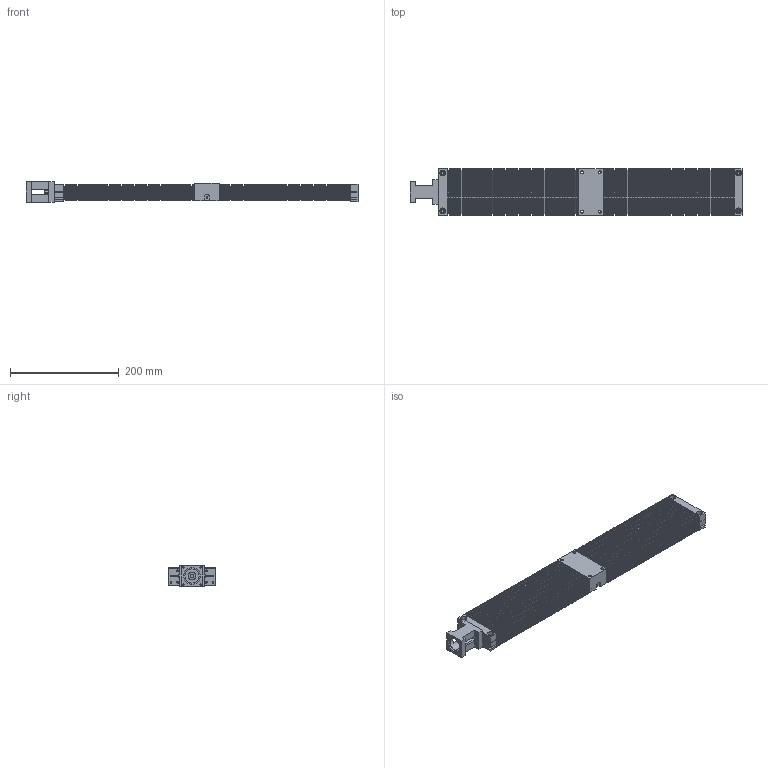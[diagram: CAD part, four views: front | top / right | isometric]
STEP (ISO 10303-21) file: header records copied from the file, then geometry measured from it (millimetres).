
FILE_DESCRIPTION (( 'STEP AP214' ), '1' );
FILE_NAME ('TKC0802B-300-F0-C-潠眢耀郪-20240914.STEP', '2024-09-14T02:58:19', ( '' ), ( '' ), 'SwSTEP 2.0', 'SolidWorks 2020', '' );
FILE_SCHEMA (( 'AUTOMOTIVE_DESIGN' ));
Length unit declared in the file: millimetre
Products named in the file (6): tkc08-盓傅釱; tkc08-賑怢; tkc08-嘐隅盓傅釱; 鎮湛釱-100W; TKC0802B-300-F0-C-潠眢耀郪-20240914; 瑞р欶
Assembly tree (6 placements, depth 2):
  TKC0802B-300-F0-C-潠眢耀郪-20240914
    tkc08-盓傅釱
    tkc08-賑怢
    tkc08-嘐隅盓傅釱
    瑞р欶  x2
    鎮湛釱-100W
Bounding box: 612 x 85 x 38 mm (x, y, z)
Volume: 645451.9 mm3; surface area: 478100.7 mm2
Topology: 62 solids, 62 shells, 2872 faces, 6073 edges, 3262 vertices
Faces by surface type: plane 2180, cylinder 387, bspline 169, cone 128, torus 8
Entity records: 66503 total; most frequent: CARTESIAN_POINT 16138, DIRECTION 8086, ORIENTED_EDGE 8010, EDGE_CURVE 4005, AXIS2_PLACEMENT_3D 2698, LINE 2690, VECTOR 2690, VERTEX_POINT 2286
